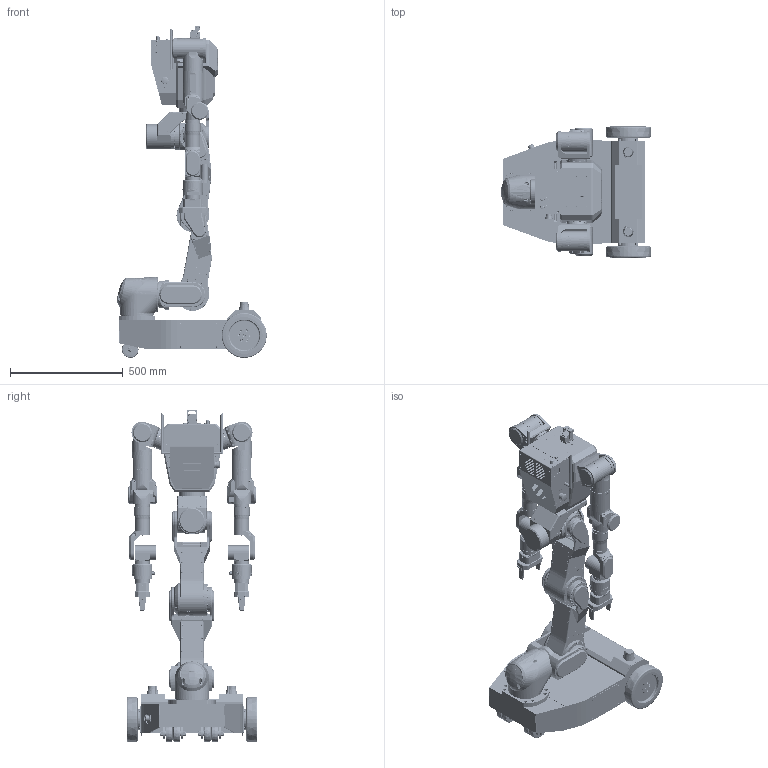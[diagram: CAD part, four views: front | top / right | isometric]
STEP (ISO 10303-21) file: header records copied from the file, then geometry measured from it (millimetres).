
FILE_DESCRIPTION(/* description */ (''),/* implementation_level */ '2;1');
FILE_NAME(/* name */ 'RB-Y1_v1.0_3D_Fast Grip_DD_260107.stp',/* time_stamp */ '2026-01-08T09:16:21+09:00',/* author */ ('KiWook.H'),/* organization */ (''),/* preprocessor_version */ 'ST-DEVELOPER v20',/* originating_system */ 'Autodesk Inventor 2025',/* authorisation */ '');
FILE_SCHEMA (('AUTOMOTIVE_DESIGN { 1 0 10303 214 3 1 1 }'));
Products named in the file (22): RB-Y1_v1.0_3D_Fast Grip_DD_260107; 000_Base_v1.0; 001_AR_v1.0; 002_AP_v1.0; 003_KN_v1.0; 004_HP_v1.0; 005_HR_v1.0; 006_HY_v1.0; 007_SP_R_v1.0; 008_SR_R_v1.0; 009_SY_R_v1.0; 010_EL_R_v1.0; 011_WY1_R_v1.0; 012_WP_R_v1.0; 014_SP_L_v1.0; 015_SR_L_v1.0; 016_SY_L_v1.0; 017_EL_L_v1.0; 018_WY1_L_v1.0; 019_WP_L_v.0; 020_TF_v1.0; 021_Grippper_Fast_v1.0
Assembly tree (23 placements, depth 2):
  RB-Y1_v1.0_3D_Fast Grip_DD_260107
    000_Base_v1.0
    001_AR_v1.0
    002_AP_v1.0
    003_KN_v1.0
    004_HP_v1.0
    005_HR_v1.0
    006_HY_v1.0
    007_SP_R_v1.0
    008_SR_R_v1.0
    009_SY_R_v1.0
    010_EL_R_v1.0
    011_WY1_R_v1.0
    012_WP_R_v1.0
    014_SP_L_v1.0
    015_SR_L_v1.0
    016_SY_L_v1.0
    017_EL_L_v1.0
    018_WY1_L_v1.0
    019_WP_L_v.0
    020_TF_v1.0  x2
    021_Grippper_Fast_v1.0  x2
Bounding box: 662.62 x 580 x 1470 mm (x, y, z)
Volume: 71007233.6 mm3; surface area: 4896153.9 mm2
Topology: 45 solids, 253 shells, 16507 faces, 42531 edges, 27602 vertices
Faces by surface type: plane 9064, cylinder 4475, cone 1814, torus 745, bspline 330, sphere 79
Full cylindrical faces by diameter (mm): 0.7 x16, 1.03 x16, 1.5 x10, 1.567 x16, 1.7 x10, 2 x20, 2.013 x4, 2.05 x12, 2.2 x4, 2.459 x65, 2.5 x27, 2.693 x12, 3 x141, 3.1 x10, 3.2 x24, 3.242 x13, 3.3 x8, 3.4 x16, 3.9 x1, 4 x79, 4.2 x8, 4.5 x22, 4.8 x6, 4.917 x8, 5 x118, 5.1 x4, 5.2 x6, 5.5 x101, 5.6 x5, 5.7 x11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
Entity records: 590750 total; most frequent: CARTESIAN_POINT 204460, ORIENTED_EDGE 78970, DIRECTION 76140, EDGE_CURVE 39485, AXIS2_PLACEMENT_3D 27608, VERTEX_POINT 25935, LINE 20924, VECTOR 20924
